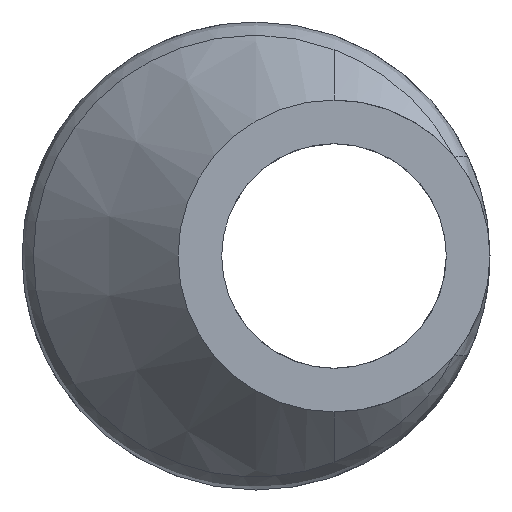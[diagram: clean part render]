
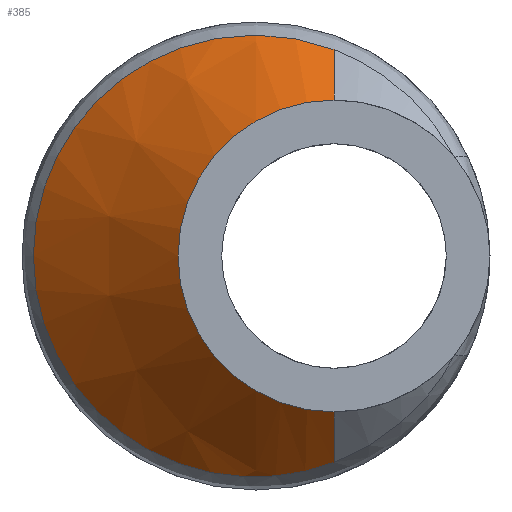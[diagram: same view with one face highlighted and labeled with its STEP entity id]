
A CAD part, left-side view. The second image highlights one B-rep face of the part: STEP entity #385.
In plain terms, the highlighted conical face has half-angle 45.009 degrees and reference radius 3.174 mm.
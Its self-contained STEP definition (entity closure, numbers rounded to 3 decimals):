
#11 = CARTESIAN_POINT ( 'NONE',  ( -20.033, 1.873, -4.117 ) ) ;
#22 = VERTEX_POINT ( 'NONE', #508 ) ;
#31 = EDGE_LOOP ( 'NONE', ( #696, #812, #210, #165 ) ) ;
#40 = CARTESIAN_POINT ( 'NONE',  ( -20.24, 1.199, -4.355 ) ) ;
#44 = EDGE_CURVE ( 'NONE', #416, #817, #424, .T. ) ;
#48 = CARTESIAN_POINT ( 'NONE',  ( -19.451, 3.9, 2.304 ) ) ;
#52 = CARTESIAN_POINT ( 'NONE',  ( -20.241, 1.199, 4.344 ) ) ;
#82 = CARTESIAN_POINT ( 'NONE',  ( -20.95, -0.914, 4.401 ) ) ;
#90 = EDGE_CURVE ( 'NONE', #131, #817, #445, .T. ) ;
#115 = CIRCLE ( 'NONE', #811, 3.174 ) ;
#117 = CARTESIAN_POINT ( 'NONE',  ( -20.584, 0.139, -4.508 ) ) ;
#119 = CARTESIAN_POINT ( 'NONE',  ( -21.198, -1.588, -4.201 ) ) ;
#131 = VERTEX_POINT ( 'NONE', #993 ) ;
#141 = EDGE_CURVE ( 'NONE', #22, #131, #637, .T. ) ;
#162 = CARTESIAN_POINT ( 'NONE',  ( -19.315, 4.402, -1.119 ) ) ;
#165 = ORIENTED_EDGE ( 'NONE', *, *, #44, .F. ) ;
#186 = CONICAL_SURFACE ( 'NONE', #283, 3.174, 0.786 ) ;
#203 = CARTESIAN_POINT ( 'NONE',  ( -20.352, 0.85, 4.423 ) ) ;
#210 = ORIENTED_EDGE ( 'NONE', *, *, #90, .T. ) ;
#216 = CARTESIAN_POINT ( 'NONE',  ( -22.225, -1.588, 0. ) ) ;
#236 = CARTESIAN_POINT ( 'NONE',  ( -19.57, 3.469, 2.906 ) ) ;
#251 = CARTESIAN_POINT ( 'NONE',  ( -19.405, 4.07, -1.992 ) ) ;
#268 = CARTESIAN_POINT ( 'NONE',  ( -19.383, 4.15, -1.822 ) ) ;
#271 = CARTESIAN_POINT ( 'NONE',  ( -19.757, 2.808, -3.556 ) ) ;
#279 = DIRECTION ( 'NONE',  ( 1., 0., 0. ) ) ;
#280 = CARTESIAN_POINT ( 'NONE',  ( -20.188, 1.371, 4.295 ) ) ;
#283 = AXIS2_PLACEMENT_3D ( 'NONE', #851, #889, #377 ) ;
#295 = DIRECTION ( 'NONE',  ( 0., 0., -1. ) ) ;
#323 = CARTESIAN_POINT ( 'NONE',  ( -20.351, 0.85, -4.434 ) ) ;
#330 = CARTESIAN_POINT ( 'NONE',  ( -21.136, -1.423, 4.263 ) ) ;
#353 = CARTESIAN_POINT ( 'NONE',  ( -22.225, -1.588, 3.174 ) ) ;
#356 = CARTESIAN_POINT ( 'NONE',  ( -19.675, 3.097, 3.311 ) ) ;
#360 = CARTESIAN_POINT ( 'NONE',  ( -20.084, 1.708, 4.175 ) ) ;
#377 = DIRECTION ( 'NONE',  ( 0., 0., -1. ) ) ;
#385 = ADVANCED_FACE ( 'NONE', ( #559 ), #186, .T. ) ;
#401 = CARTESIAN_POINT ( 'NONE',  ( -21.074, -1.256, 4.316 ) ) ;
#416 = VERTEX_POINT ( 'NONE', #1011 ) ;
#424 = LINE ( 'NONE', #877, #794 ) ;
#436 = CARTESIAN_POINT ( 'NONE',  ( -20.034, 1.873, 4.105 ) ) ;
#445 = B_SPLINE_CURVE_WITH_KNOTS ( 'NONE', 3,
 ( #503, #330, #401, #82, #592, #668, #717, #498, #203, #52, #280, #360, #436, #746, #631, #723, #356, #236, #996, #978, #48, #964, #781, #625, #644, #823, #805, #966, #162, #901, #268, #251, #872, #884, #469, #271, #744, #11, #40, #323, #117, #660, #583, #578, #482 ),
 .UNSPECIFIED., .F., .F.,
 ( 4, 2, 2, 2, 2, 2, 2, 2, 2, 2, 2, 2, 2, 2, 1, 2, 2, 2, 2, 2, 2, 2, 4 ),
 ( 0.01, 0.011, 0.011, 0.012, 0.013, 0.013, 0.014, 0.015, 0.016, 0.016, 0.017, 0.018, 0.019, 0.02, 0.02, 0.021, 0.021, 0.022, 0.024, 0.025, 0.026, 0.027, 0.028 ),
 .UNSPECIFIED. ) ;
#469 = CARTESIAN_POINT ( 'NONE',  ( -19.678, 3.086, -3.322 ) ) ;
#482 = CARTESIAN_POINT ( 'NONE',  ( -21.198, -1.588, -4.201 ) ) ;
#498 = CARTESIAN_POINT ( 'NONE',  ( -20.409, 0.672, 4.453 ) ) ;
#503 = CARTESIAN_POINT ( 'NONE',  ( -21.198, -1.588, 4.201 ) ) ;
#508 = CARTESIAN_POINT ( 'NONE',  ( -22.225, -1.588, 3.174 ) ) ;
#548 = DIRECTION ( 'NONE',  ( 0.707, 0., 0.707 ) ) ;
#559 = FACE_OUTER_BOUND ( 'NONE', #31, .T. ) ;
#578 = CARTESIAN_POINT ( 'NONE',  ( -21.074, -1.26, -4.325 ) ) ;
#583 = CARTESIAN_POINT ( 'NONE',  ( -20.948, -0.912, -4.412 ) ) ;
#592 = CARTESIAN_POINT ( 'NONE',  ( -20.887, -0.739, 4.435 ) ) ;
#625 = CARTESIAN_POINT ( 'NONE',  ( -19.293, 4.487, 0.739 ) ) ;
#631 = CARTESIAN_POINT ( 'NONE',  ( -19.889, 2.356, 3.853 ) ) ;
#637 = LINE ( 'NONE', #353, #1013 ) ;
#644 = CARTESIAN_POINT ( 'NONE',  ( -19.281, 4.532, 0.368 ) ) ;
#660 = CARTESIAN_POINT ( 'NONE',  ( -20.703, -0.214, -4.503 ) ) ;
#668 = CARTESIAN_POINT ( 'NONE',  ( -20.702, -0.212, 4.503 ) ) ;
#696 = ORIENTED_EDGE ( 'NONE', *, *, #769, .T. ) ;
#717 = CARTESIAN_POINT ( 'NONE',  ( -20.583, 0.141, 4.508 ) ) ;
#723 = CARTESIAN_POINT ( 'NONE',  ( -19.755, 2.814, 3.551 ) ) ;
#744 = CARTESIAN_POINT ( 'NONE',  ( -19.934, 2.202, -3.953 ) ) ;
#746 = CARTESIAN_POINT ( 'NONE',  ( -19.936, 2.197, 3.944 ) ) ;
#769 = EDGE_CURVE ( 'NONE', #416, #22, #115, .T. ) ;
#781 = CARTESIAN_POINT ( 'NONE',  ( -19.342, 4.301, 1.469 ) ) ;
#794 = VECTOR ( 'NONE', #974, 1000. ) ;
#805 = CARTESIAN_POINT ( 'NONE',  ( -19.284, 4.519, -0.382 ) ) ;
#811 = AXIS2_PLACEMENT_3D ( 'NONE', #216, #279, #295 ) ;
#812 = ORIENTED_EDGE ( 'NONE', *, *, #141, .T. ) ;
#817 = VERTEX_POINT ( 'NONE', #119 ) ;
#823 = CARTESIAN_POINT ( 'NONE',  ( -19.281, 4.532, -0.193 ) ) ;
#851 = CARTESIAN_POINT ( 'NONE',  ( -22.225, -1.588, 0. ) ) ;
#872 = CARTESIAN_POINT ( 'NONE',  ( -19.477, 3.804, -2.478 ) ) ;
#877 = CARTESIAN_POINT ( 'NONE',  ( -22.225, -1.588, -3.174 ) ) ;
#884 = CARTESIAN_POINT ( 'NONE',  ( -19.537, 3.589, -2.778 ) ) ;
#889 = DIRECTION ( 'NONE',  ( 1., 0., 0. ) ) ;
#901 = CARTESIAN_POINT ( 'NONE',  ( -19.346, 4.287, -1.473 ) ) ;
#964 = CARTESIAN_POINT ( 'NONE',  ( -19.379, 4.166, 1.814 ) ) ;
#966 = CARTESIAN_POINT ( 'NONE',  ( -19.297, 4.472, -0.754 ) ) ;
#974 = DIRECTION ( 'NONE',  ( 0.707, 0., -0.707 ) ) ;
#978 = CARTESIAN_POINT ( 'NONE',  ( -19.478, 3.8, 2.463 ) ) ;
#993 = CARTESIAN_POINT ( 'NONE',  ( -21.198, -1.588, 4.201 ) ) ;
#996 = CARTESIAN_POINT ( 'NONE',  ( -19.538, 3.585, 2.764 ) ) ;
#1011 = CARTESIAN_POINT ( 'NONE',  ( -22.225, -1.588, -3.174 ) ) ;
#1013 = VECTOR ( 'NONE', #548, 1000. ) ;
